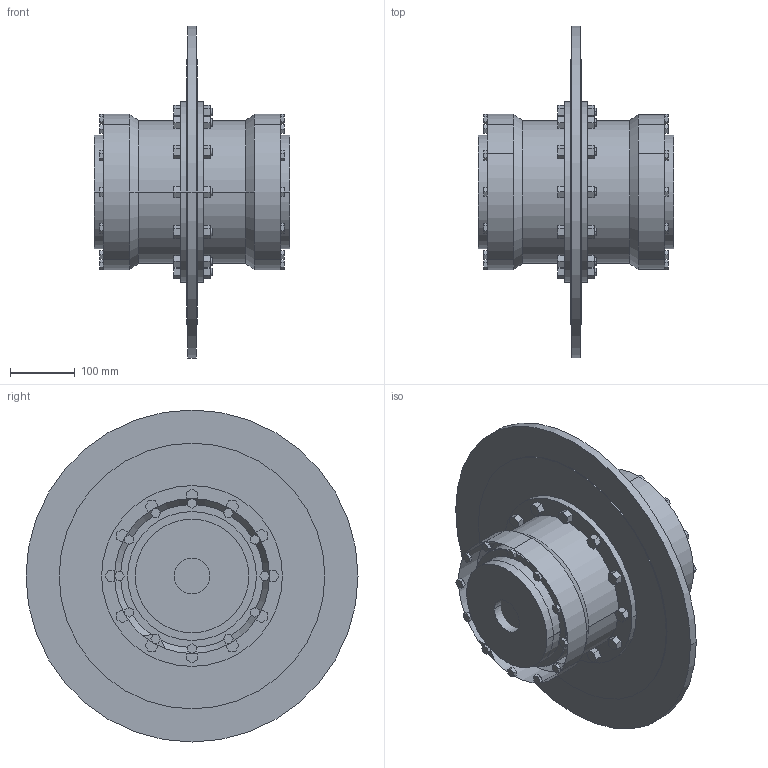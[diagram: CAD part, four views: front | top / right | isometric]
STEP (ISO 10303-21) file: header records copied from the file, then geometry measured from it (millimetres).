
FILE_DESCRIPTION((''),'2;1');
FILE_NAME('A19730400-0_ASM','2019-05-23T',('AB_Roschiwal'),('RENK AG'),'PRO/ENGINEER BY PARAMETRIC TECHNOLOGY CORPORATION, 2015440','PRO/ENGINEER BY PARAMETRIC TECHNOLOGY CORPORATION, 2015440','');
FILE_SCHEMA(('CONFIG_CONTROL_DESIGN'));
Length unit declared in the file: millimetre
Products named in the file (4): SBKT110_GEHAEUSE; SBKT110_NABE; SBKT110_BREMSSCHEIBE; A19730400-0_ASM
Assembly tree (4 placements, depth 2):
  A19730400-0_ASM
    SBKT110_GEHAEUSE
    SBKT110_NABE  x2
    SBKT110_BREMSSCHEIBE
Bounding box: 303 x 514 x 514 mm (x, y, z)
Volume: 12243947.2 mm3; surface area: 1170536.3 mm2
Topology: 4 solids, 4 shells, 470 faces, 1272 edges, 812 vertices
Faces by surface type: plane 370, cylinder 96, cone 4
Entity records: 13708 total; most frequent: CARTESIAN_POINT 2366, ORIENTED_EDGE 2304, DIRECTION 2280, EDGE_CURVE 1152, VECTOR 956, LINE 956, VERTEX_POINT 748, AXIS2_PLACEMENT_3D 662
